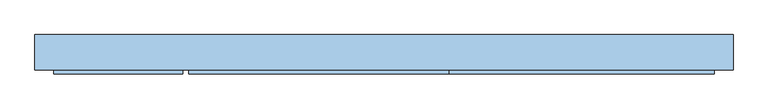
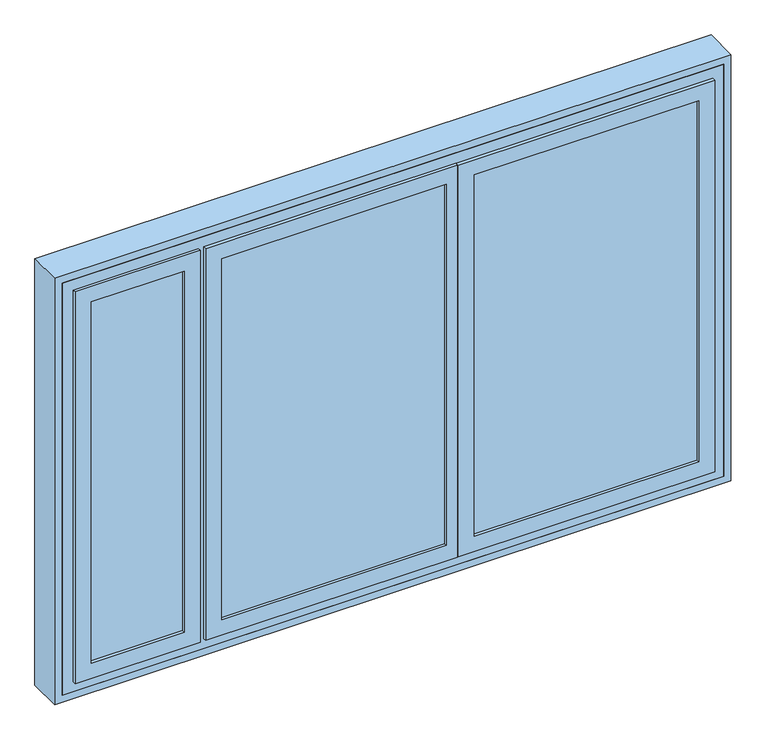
"""IFC4 building model written with IfcOpenShell, lengths in millimetres: window geometry, Окно 3-Распашное - Разделенные наружные и парные внутренние переплеты с остеклением - ГОСТ 11214-2003 : ОД РСП Г1 1760-2670-138 ГОСТ 11214-2003."""

from ifc_helpers import new_model, si_unit, frame, origin, place, context, project, spatial, polyline, outline, extrude, faceted_brep, source, transform, mapped, element, save


def window_17d24cb2(model_context):
    return source(origin(), model_context, "Body", "SolidModel", [
        extrude(outline(polyline([(2620.0, -1385.0), (800.0, -1385.0), (800.0, 1345.0), (2620.0, 1345.0), (2620.0, -1385.0)]), holes=[polyline([(2590.0, 1315.0), (830.0, 1315.0), (830.0, -1355.0), (2590.0, -1355.0), (2590.0, 1315.0)])]), frame((0.0, 167.0, 0.0), z_axis=(0.0, 1.0, 0.0), x_axis=(0.0, 0.0, 1.0)), (0.0, 0.0, 1.0), 138.0),
        extrude(outline(polyline([(1226.0383918, 168.0), (1226.0383918, 165.0), (280.5, 165.0), (280.5, 168.0), (1226.0383918, 168.0)])), frame((0.0, 0.0, 919.0), z_axis=(0.0, 0.0, 1.0), x_axis=(1.0, 0.0, 0.0)), (0.0, 0.0, 1.0), 1582.0),
        extrude(outline(polyline([(1226.0, 215.0), (1226.0, 212.0), (280.5, 212.0), (280.5, 215.0), (1226.0, 215.0)])), frame((0.0, 0.0, 919.0), z_axis=(0.0, 0.0, 1.0), x_axis=(1.0, 0.0, 0.0)), (0.0, 0.0, 1.0), 1582.0),
        extrude(outline(polyline([(207.5, 168.0), (207.5, 165.0), (-739.0, 165.0), (-739.0, 168.0), (207.5, 168.0)])), frame((0.0, 0.0, 919.0), z_axis=(0.0, 0.0, 1.0), x_axis=(1.0, 0.0, 0.0)), (0.0, 0.0, 1.0), 1582.0),
        extrude(outline(polyline([(207.5, 215.0), (207.5, 212.0), (-739.0, 212.0), (-739.0, 215.0), (207.5, 215.0)])), frame((0.0, 0.0, 919.0), z_axis=(0.0, 0.0, 1.0), x_axis=(1.0, 0.0, 0.0)), (0.0, 0.0, 1.0), 1582.0),
        extrude(outline(polyline([(-851.0, 168.0), (-851.0, 165.0), (-1266.0, 165.0), (-1266.0, 168.0), (-851.0, 168.0)])), frame((0.0, 0.0, 919.0), z_axis=(0.0, 0.0, 1.0), x_axis=(1.0, 0.0, 0.0)), (0.0, 0.0, 1.0), 1582.0),
        extrude(outline(polyline([(-851.0, 215.0), (-851.0, 212.0), (-1266.0, 212.0), (-1266.0, 215.0), (-851.0, 215.0)])), frame((0.0, 0.0, 919.0), z_axis=(0.0, 0.0, 1.0), x_axis=(1.0, 0.0, 0.0)), (0.0, 0.0, 1.0), 1582.0),
        extrude(outline(polyline([(1214.0, 275.0), (1214.0, 272.0), (280.5, 272.0), (280.5, 275.0), (1214.0, 275.0)])), frame((0.0, 0.0, 931.0), z_axis=(0.0, 0.0, 1.0), x_axis=(1.0, 0.0, 0.0)), (0.0, 0.0, 1.0), 1558.0),
        extrude(outline(polyline([(207.5, 275.0), (207.5, 272.0), (-710.0, 272.0), (-710.0, 275.0), (207.5, 275.0)])), frame((0.0, 0.0, 931.0), z_axis=(0.0, 0.0, 1.0), x_axis=(1.0, 0.0, 0.0)), (0.0, 0.0, 1.0), 1558.0),
        extrude(outline(polyline([(-880.0, 275.0), (-880.0, 272.0), (-1254.0, 272.0), (-1254.0, 275.0), (-880.0, 275.0)])), frame((0.0, 0.0, 931.0), z_axis=(0.0, 0.0, 1.0), x_axis=(1.0, 0.0, 0.0)), (0.0, 0.0, 1.0), 1558.0),
        faceted_brep([(1259.0, 259.0, 2534.0), (1259.0, 249.0, 2534.0), (1259.0, 249.0, 886.0), (1259.0, 259.0, 886.0), (235.5, 249.0, 2534.0), (235.5, 249.0, 886.0), (1194.0, 249.0, 951.0), (300.5, 249.0, 951.0), (300.5, 249.0, 2469.0), (1194.0, 249.0, 2469.0), (235.5, 259.0, 886.0), (235.5, 259.0, 2534.0), (1250.0, 259.0, 2525.0), (244.5, 259.0, 2525.0), (244.5, 259.0, 895.0), (1250.0, 259.0, 895.0), (1250.0, 288.0, 2525.0), (1250.0, 288.0, 895.0), (244.5, 288.0, 895.0), (244.5, 288.0, 2525.0), (1194.0, 288.0, 2469.0), (300.5, 288.0, 2469.0), (300.5, 288.0, 951.0), (1194.0, 288.0, 951.0), (1194.0, 275.0, 2469.0), (1194.0, 275.0, 951.0), (300.5, 275.0, 951.0), (1214.0, 275.0, 2489.0), (280.5, 275.0, 2489.0), (280.5, 275.0, 931.0), (1214.0, 275.0, 931.0), (300.5, 275.0, 2469.0), (1214.0, 272.0, 2489.0), (1214.0, 272.0, 931.0), (280.5, 272.0, 931.0), (280.5, 272.0, 2489.0), (1194.0, 272.0, 2469.0), (300.5, 272.0, 2469.0), (300.5, 272.0, 951.0), (1194.0, 272.0, 951.0)], [[[0, 1, 2, 3]], [[1, 4, 5, 2], [6, 7, 8, 9]], [[3, 2, 5, 10]], [[3, 10, 11, 0], [12, 13, 14, 15]], [[16, 12, 15, 17]], [[17, 15, 14, 18]], [[17, 18, 19, 16], [20, 21, 22, 23]], [[24, 20, 23, 25]], [[25, 23, 22, 26]], [[27, 28, 29, 30], [25, 26, 31, 24]], [[32, 27, 30, 33]], [[33, 30, 29, 34]], [[33, 34, 35, 32], [36, 37, 38, 39]], [[9, 36, 39, 6]], [[6, 39, 38, 7]], [[10, 5, 4, 11]], [[18, 14, 13, 19]], [[26, 22, 21, 31]], [[34, 29, 28, 35]], [[7, 38, 37, 8]], [[11, 4, 1, 0]], [[19, 13, 12, 16]], [[31, 21, 20, 24]], [[35, 28, 27, 32]], [[8, 37, 36, 9]]]),
        faceted_brep([(1206.0, 215.0, 2481.0), (1206.0, 228.0, 2481.0), (1206.0, 228.0, 939.0), (1206.0, 215.0, 939.0), (1262.0, 228.0, 883.0), (244.5, 228.0, 883.0), (244.5, 228.0, 2537.0), (1262.0, 228.0, 2537.0), (300.5, 228.0, 2481.0), (300.5, 228.0, 939.0), (300.5, 215.0, 939.0), (1226.0, 215.0, 2501.0), (280.5, 215.0, 2501.0), (280.5, 215.0, 919.0), (1226.0, 215.0, 919.0), (300.5, 215.0, 2481.0), (1226.0, 212.0, 2501.0), (1226.0, 212.0, 919.0), (280.5, 212.0, 919.0), (280.5, 212.0, 2501.0), (1206.0, 212.0, 2481.0), (300.5, 212.0, 2481.0), (300.5, 212.0, 939.0), (1206.0, 212.0, 939.0), (1206.0, 196.0, 2481.0), (1206.0, 196.0, 939.0), (300.5, 196.0, 939.0), (1262.0, 196.0, 2537.0), (244.5, 196.0, 2537.0), (244.5, 196.0, 883.0), (1262.0, 196.0, 883.0), (300.5, 196.0, 2481.0)], [[[0, 1, 2, 3]], [[4, 5, 6, 7], [1, 8, 9, 2]], [[3, 2, 9, 10]], [[11, 12, 13, 14], [3, 10, 15, 0]], [[16, 11, 14, 17]], [[17, 14, 13, 18]], [[17, 18, 19, 16], [20, 21, 22, 23]], [[24, 20, 23, 25]], [[25, 23, 22, 26]], [[27, 28, 29, 30], [25, 26, 31, 24]], [[7, 27, 30, 4]], [[4, 30, 29, 5]], [[10, 9, 8, 15]], [[18, 13, 12, 19]], [[26, 22, 21, 31]], [[5, 29, 28, 6]], [[15, 8, 1, 0]], [[19, 12, 11, 16]], [[31, 21, 20, 24]], [[6, 28, 27, 7]]]),
        faceted_brep([(1262.0, 194.0, 2537.0), (1262.0, 165.0, 2537.0), (1262.0, 165.0, 883.0), (1262.0, 194.0, 883.0), (1271.0, 165.0, 874.0), (235.5, 165.0, 874.0), (235.5, 165.0, 2546.0), (1271.0, 165.0, 2546.0), (244.5, 165.0, 2537.0), (244.5, 165.0, 883.0), (244.5, 194.0, 883.0), (244.5, 194.0, 2537.0), (1206.0, 194.0, 2481.0), (300.5, 194.0, 2481.0), (300.5, 194.0, 939.0), (1206.0, 194.0, 939.0), (1206.0, 152.0, 2481.0), (1206.0, 165.0, 2481.0), (1206.0, 165.0, 939.0), (1206.0, 152.0, 939.0), (1226.0, 165.0, 919.0), (280.5, 165.0, 919.0), (280.5, 165.0, 2501.0), (1226.0, 165.0, 2501.0), (300.5, 165.0, 2481.0), (300.5, 165.0, 939.0), (300.5, 152.0, 939.0), (1271.0, 152.0, 2546.0), (235.5, 152.0, 2546.0), (235.5, 152.0, 874.0), (1271.0, 152.0, 874.0), (300.5, 152.0, 2481.0), (300.5, 168.0, 939.0), (300.5, 168.0, 2481.0), (1206.0, 168.0, 939.0), (1206.0, 168.0, 2481.0), (1226.0, 168.0, 2501.0), (280.5, 168.0, 2501.0), (280.5, 168.0, 919.0), (1226.0, 168.0, 919.0)], [[[0, 1, 2, 3]], [[4, 5, 6, 7], [1, 8, 9, 2]], [[3, 2, 9, 10]], [[3, 10, 11, 0], [12, 13, 14, 15]], [[16, 17, 18, 19]], [[20, 21, 22, 23], [17, 24, 25, 18]], [[19, 18, 25, 26]], [[27, 28, 29, 30], [19, 26, 31, 16]], [[7, 27, 30, 4]], [[4, 30, 29, 5]], [[10, 9, 8, 11]], [[26, 25, 24, 31]], [[5, 29, 28, 6]], [[32, 14, 13, 33]], [[34, 15, 14, 32]], [[35, 12, 15, 34]], [[36, 37, 38, 39], [34, 32, 33, 35]], [[23, 36, 39, 20]], [[20, 39, 38, 21]], [[21, 38, 37, 22]], [[11, 8, 1, 0]], [[31, 24, 17, 16]], [[6, 28, 27, 7]], [[33, 13, 12, 35]], [[22, 37, 36, 23]]]),
        faceted_brep([(232.5, 259.0, 2525.0), (232.5, 259.0, 2534.0), (232.5, 249.0, 2534.0), (232.5, 249.0, 886.0), (232.5, 259.0, 886.0), (232.5, 259.0, 895.0), (232.5, 261.0, 895.0), (232.5, 261.0, 2525.0), (-755.0, 249.0, 2534.0), (-755.0, 249.0, 886.0), (-690.0, 249.0, 2469.0), (187.5, 249.0, 2469.0), (187.5, 249.0, 951.0), (-690.0, 249.0, 951.0), (-755.0, 259.0, 886.0), (-746.0, 259.0, 2525.0), (-746.0, 259.0, 895.0), (-755.0, 259.0, 2534.0), (-746.0, 288.0, 895.0), (242.5, 288.0, 895.0), (242.5, 261.0, 895.0), (242.5, 261.0, 2525.0), (-746.0, 288.0, 2525.0), (187.5, 272.0, 2469.0), (187.5, 272.0, 951.0), (-690.0, 272.0, 951.0), (-690.0, 272.0, 2469.0), (-710.0, 272.0, 931.0), (-710.0, 272.0, 2489.0), (207.5, 272.0, 2489.0), (207.5, 272.0, 931.0), (-710.0, 275.0, 931.0), (-710.0, 275.0, 2489.0), (207.5, 275.0, 2489.0), (207.5, 275.0, 931.0), (-690.0, 275.0, 2469.0), (187.5, 275.0, 2469.0), (187.5, 275.0, 951.0), (-690.0, 275.0, 951.0), (187.5, 288.0, 2469.0), (187.5, 288.0, 951.0), (-690.0, 288.0, 951.0), (-690.0, 288.0, 2469.0), (242.5, 288.0, 2525.0)], [[[0, 1, 2, 3, 4, 5, 6, 7]], [[3, 2, 8, 9], [10, 11, 12, 13]], [[14, 4, 3, 9]], [[1, 0, 15, 16, 5, 4, 14, 17]], [[16, 18, 19, 20, 6, 5]], [[21, 7, 6, 20]], [[16, 15, 22, 18]], [[17, 14, 9, 8]], [[23, 24, 12, 11]], [[25, 13, 12, 24]], [[10, 13, 25, 26]], [[27, 28, 29, 30], [26, 25, 24, 23]], [[28, 27, 31, 32]], [[30, 29, 33, 34]], [[34, 31, 27, 30]], [[32, 31, 34, 33], [35, 36, 37, 38]], [[39, 40, 37, 36]], [[41, 38, 37, 40]], [[35, 38, 41, 42]], [[43, 19, 18, 22], [42, 41, 40, 39]], [[43, 21, 20, 19]], [[2, 1, 17, 8]], [[43, 22, 15, 0, 7, 21]], [[10, 26, 23, 11]], [[29, 28, 32, 33]], [[35, 42, 39, 36]]]),
        faceted_brep([(232.5, 152.0, 874.0), (232.5, 165.0, 874.0), (232.5, 165.0, 884.0), (232.5, 167.0, 884.0), (232.5, 167.0, 2536.0), (232.5, 165.0, 2536.0), (232.5, 165.0, 2546.0), (232.5, 152.0, 2546.0), (-784.0, 152.0, 874.0), (-784.0, 165.0, 874.0), (-774.0, 165.0, 884.0), (-784.0, 165.0, 2546.0), (-774.0, 165.0, 2536.0), (-774.0, 194.0, 884.0), (242.5, 194.0, 884.0), (242.5, 167.0, 884.0), (242.5, 167.0, 2536.0), (-784.0, 152.0, 2546.0), (-719.0, 152.0, 939.0), (-719.0, 152.0, 2481.0), (187.5, 152.0, 2481.0), (187.5, 152.0, 939.0), (-774.0, 194.0, 2536.0), (242.5, 194.0, 2536.0), (-719.0, 194.0, 939.0), (187.5, 194.0, 939.0), (187.5, 194.0, 2481.0), (-719.0, 194.0, 2481.0), (-719.0, 168.0, 939.0), (187.5, 168.0, 939.0), (187.5, 168.0, 2481.0), (-719.0, 168.0, 2481.0), (-739.0, 168.0, 2501.0), (-739.0, 168.0, 919.0), (207.5, 168.0, 919.0), (207.5, 168.0, 2501.0), (-739.0, 165.0, 2501.0), (-739.0, 165.0, 919.0), (207.5, 165.0, 919.0), (207.5, 165.0, 2501.0), (-719.0, 165.0, 939.0), (187.5, 165.0, 939.0), (187.5, 165.0, 2481.0), (-719.0, 165.0, 2481.0)], [[[0, 1, 2, 3, 4, 5, 6, 7]], [[1, 0, 8, 9]], [[10, 2, 1, 9, 11, 6, 5, 12]], [[10, 13, 14, 15, 3, 2]], [[16, 4, 3, 15]], [[0, 7, 17, 8], [18, 19, 20, 21]], [[13, 10, 12, 22]], [[14, 13, 22, 23], [24, 25, 26, 27]], [[23, 16, 15, 14]], [[24, 28, 29, 25]], [[29, 30, 26, 25]], [[24, 27, 31, 28]], [[32, 33, 34, 35], [28, 31, 30, 29]], [[33, 32, 36, 37]], [[34, 33, 37, 38]], [[35, 34, 38, 39]], [[37, 36, 39, 38], [40, 41, 42, 43]], [[40, 18, 21, 41]], [[21, 20, 42, 41]], [[40, 43, 19, 18]], [[8, 17, 11, 9]], [[23, 22, 12, 5, 4, 16]], [[17, 7, 6, 11]], [[31, 27, 26, 30]], [[39, 36, 32, 35]], [[19, 43, 42, 20]]]),
        faceted_brep([(-763.0, 228.0, 884.0), (-763.0, 196.0, 884.0), (-763.0, 196.0, 2536.0), (-763.0, 228.0, 2536.0), (242.5, 228.0, 884.0), (242.5, 196.0, 884.0), (242.5, 196.0, 2536.0), (187.5, 196.0, 939.0), (-719.0, 196.0, 939.0), (-719.0, 196.0, 2481.0), (187.5, 196.0, 2481.0), (242.5, 228.0, 2536.0), (187.5, 228.0, 2481.0), (-719.0, 228.0, 2481.0), (-719.0, 228.0, 939.0), (187.5, 228.0, 939.0), (-719.0, 215.0, 2481.0), (-719.0, 215.0, 939.0), (187.5, 215.0, 939.0), (187.5, 215.0, 2481.0), (207.5, 215.0, 919.0), (207.5, 215.0, 2501.0), (-739.0, 215.0, 2501.0), (-739.0, 215.0, 919.0), (207.5, 212.0, 919.0), (207.5, 212.0, 2501.0), (-739.0, 212.0, 2501.0), (-739.0, 212.0, 919.0), (187.5, 212.0, 2481.0), (-719.0, 212.0, 2481.0), (-719.0, 212.0, 939.0), (187.5, 212.0, 939.0)], [[[0, 1, 2, 3]], [[0, 4, 5, 1]], [[2, 1, 5, 6], [7, 8, 9, 10]], [[0, 3, 11, 4], [12, 13, 14, 15]], [[16, 17, 14, 13]], [[18, 15, 14, 17]], [[12, 15, 18, 19]], [[4, 11, 6, 5]], [[20, 21, 22, 23], [19, 18, 17, 16]], [[21, 20, 24, 25]], [[23, 22, 26, 27]], [[27, 24, 20, 23]], [[25, 24, 27, 26], [28, 29, 30, 31]], [[9, 8, 30, 29]], [[7, 31, 30, 8]], [[28, 31, 7, 10]], [[11, 3, 2, 6]], [[12, 19, 16, 13]], [[22, 21, 25, 26]], [[28, 10, 9, 29]]]),
        faceted_brep([(-827.0, 228.0, 884.0), (-827.0, 196.0, 884.0), (-1301.0, 196.0, 884.0), (-1301.0, 228.0, 884.0), (-827.0, 228.0, 2536.0), (-827.0, 196.0, 2536.0), (-1301.0, 196.0, 2536.0), (-870.8851315, 196.0, 2481.0), (-870.8851315, 196.0, 939.0), (-1246.0, 196.0, 939.0), (-1246.0, 196.0, 2481.0), (-1301.0, 228.0, 2536.0), (-870.8851315, 228.0, 939.0), (-870.8851315, 228.0, 2481.0), (-1246.0, 228.0, 2481.0), (-1246.0, 228.0, 939.0), (-1266.0, 215.0, 919.0), (-1266.0, 215.0, 2501.0), (-1266.0, 212.0, 2501.0), (-1266.0, 212.0, 919.0), (-851.0, 215.0, 919.0), (-851.0, 215.0, 2501.0), (-870.8851315, 215.0, 2481.0), (-870.8851315, 215.0, 939.0), (-1246.0, 215.0, 939.0), (-1246.0, 215.0, 2481.0), (-851.0, 212.0, 919.0), (-851.0, 212.0, 2501.0), (-870.8851315, 212.0, 939.0), (-870.8851315, 212.0, 2481.0), (-1246.0, 212.0, 2481.0), (-1246.0, 212.0, 939.0)], [[[0, 1, 2, 3]], [[0, 4, 5, 1]], [[5, 6, 2, 1], [7, 8, 9, 10]], [[2, 6, 11, 3]], [[11, 4, 0, 3], [12, 13, 14, 15]], [[16, 17, 18, 19]], [[17, 16, 20, 21], [22, 23, 24, 25]], [[20, 16, 19, 26]], [[21, 20, 26, 27]], [[23, 22, 13, 12]], [[15, 24, 23, 12]], [[15, 14, 25, 24]], [[19, 18, 27, 26], [28, 29, 30, 31]], [[29, 28, 8, 7]], [[10, 9, 31, 30]], [[31, 9, 8, 28]], [[5, 4, 11, 6]], [[27, 18, 17, 21]], [[25, 14, 13, 22]], [[10, 30, 29, 7]]]),
        faceted_brep([(-844.0, 288.0, 2525.0), (-844.0, 259.0, 2525.0), (-844.0, 259.0, 895.0), (-844.0, 288.0, 895.0), (-835.0, 259.0, 886.0), (-1299.0, 259.0, 886.0), (-1299.0, 259.0, 2534.0), (-835.0, 259.0, 2534.0), (-1290.0, 259.0, 2525.0), (-1290.0, 259.0, 895.0), (-1290.0, 288.0, 895.0), (-1290.0, 288.0, 2525.0), (-900.0, 288.0, 2469.0), (-1234.0, 288.0, 2469.0), (-1234.0, 288.0, 951.0), (-900.0, 288.0, 951.0), (-900.0, 249.0, 2469.0), (-900.0, 272.0, 2469.0), (-900.0, 272.0, 951.0), (-900.0, 249.0, 951.0), (-880.0, 272.0, 931.0), (-1254.0, 272.0, 931.0), (-1254.0, 272.0, 2489.0), (-880.0, 272.0, 2489.0), (-1234.0, 272.0, 2469.0), (-1234.0, 272.0, 951.0), (-1234.0, 249.0, 951.0), (-835.0, 249.0, 2534.0), (-1299.0, 249.0, 2534.0), (-1299.0, 249.0, 886.0), (-835.0, 249.0, 886.0), (-1234.0, 249.0, 2469.0), (-1234.0, 275.0, 951.0), (-1234.0, 275.0, 2469.0), (-900.0, 275.0, 951.0), (-900.0, 275.0, 2469.0), (-880.0, 275.0, 2489.0), (-1254.0, 275.0, 2489.0), (-1254.0, 275.0, 931.0), (-880.0, 275.0, 931.0)], [[[0, 1, 2, 3]], [[4, 5, 6, 7], [1, 8, 9, 2]], [[3, 2, 9, 10]], [[3, 10, 11, 0], [12, 13, 14, 15]], [[16, 17, 18, 19]], [[20, 21, 22, 23], [17, 24, 25, 18]], [[19, 18, 25, 26]], [[27, 28, 29, 30], [19, 26, 31, 16]], [[7, 27, 30, 4]], [[4, 30, 29, 5]], [[10, 9, 8, 11]], [[26, 25, 24, 31]], [[5, 29, 28, 6]], [[32, 14, 13, 33]], [[34, 15, 14, 32]], [[35, 12, 15, 34]], [[36, 37, 38, 39], [34, 32, 33, 35]], [[23, 36, 39, 20]], [[20, 39, 38, 21]], [[21, 38, 37, 22]], [[11, 8, 1, 0]], [[31, 24, 17, 16]], [[6, 28, 27, 7]], [[33, 13, 12, 35]], [[22, 37, 36, 23]]]),
        faceted_brep([(-816.0, 194.0, 2536.0), (-816.0, 165.0, 2536.0), (-816.0, 165.0, 884.0), (-816.0, 194.0, 884.0), (-806.0, 165.0, 874.0), (-1311.0, 165.0, 874.0), (-1311.0, 165.0, 2546.0), (-806.0, 165.0, 2546.0), (-1301.0, 165.0, 2536.0), (-1301.0, 165.0, 884.0), (-1301.0, 194.0, 884.0), (-1301.0, 194.0, 2536.0), (-871.0, 194.0, 2481.0), (-1246.0, 194.0, 2481.0), (-1246.0, 194.0, 939.0), (-871.0, 194.0, 939.0), (-871.0, 152.0, 2481.0), (-871.0, 165.0, 2481.0), (-871.0, 165.0, 939.0), (-871.0, 152.0, 939.0), (-851.0, 165.0, 919.0), (-1266.0, 165.0, 919.0), (-1266.0, 165.0, 2501.0), (-851.0, 165.0, 2501.0), (-1246.0, 165.0, 2481.0), (-1246.0, 165.0, 939.0), (-1246.0, 152.0, 939.0), (-806.0, 152.0, 2546.0), (-1311.0, 152.0, 2546.0), (-1311.0, 152.0, 874.0), (-806.0, 152.0, 874.0), (-1246.0, 152.0, 2481.0), (-1246.0, 168.0, 939.0), (-1246.0, 168.0, 2481.0), (-871.0, 168.0, 939.0), (-871.0, 168.0, 2481.0), (-851.0, 168.0, 2501.0), (-1266.0, 168.0, 2501.0), (-1266.0, 168.0, 919.0), (-851.0, 168.0, 919.0)], [[[0, 1, 2, 3]], [[4, 5, 6, 7], [1, 8, 9, 2]], [[3, 2, 9, 10]], [[3, 10, 11, 0], [12, 13, 14, 15]], [[16, 17, 18, 19]], [[20, 21, 22, 23], [17, 24, 25, 18]], [[19, 18, 25, 26]], [[27, 28, 29, 30], [19, 26, 31, 16]], [[7, 27, 30, 4]], [[4, 30, 29, 5]], [[10, 9, 8, 11]], [[26, 25, 24, 31]], [[5, 29, 28, 6]], [[32, 14, 13, 33]], [[34, 15, 14, 32]], [[35, 12, 15, 34]], [[36, 37, 38, 39], [34, 32, 33, 35]], [[23, 36, 39, 20]], [[20, 39, 38, 21]], [[21, 38, 37, 22]], [[11, 8, 1, 0]], [[31, 24, 17, 16]], [[6, 28, 27, 7]], [[33, 13, 12, 35]], [[22, 37, 36, 23]]]),
        faceted_brep([(1315.0, 305.0, 830.0), (1315.0, 167.0, 830.0), (-1355.0, 167.0, 830.0), (-1355.0, 305.0, 830.0), (1315.0, 305.0, 2590.0), (1315.0, 167.0, 2590.0), (-1355.0, 167.0, 2590.0), (1264.0, 167.0, 881.0), (-777.0, 167.0, 881.0), (-777.0, 167.0, 2539.0), (1264.0, 167.0, 2539.0), (-1304.0, 167.0, 881.0), (-1304.0, 167.0, 2539.0), (-813.0, 167.0, 2539.0), (-813.0, 167.0, 881.0), (-1355.0, 305.0, 2590.0), (-1274.0, 305.0, 887.1764763), (-856.0, 305.0, 887.1764763), (-856.0, 305.0, 2509.0), (-1274.0, 305.0, 2509.0), (1234.0, 305.0, 887.1764763), (1234.0, 305.0, 2509.0), (-734.0, 305.0, 2509.0), (-734.0, 305.0, 887.1764763), (-1304.0, 261.0, 2539.0), (-1304.0, 261.0, 881.0), (1264.0, 261.0, 881.0), (-765.0, 261.0, 881.0), (-765.0, 196.0, 881.0), (-777.0, 196.0, 881.0), (-825.0, 261.0, 881.0), (-813.0, 196.0, 881.0), (-825.0, 196.0, 881.0), (-825.0, 261.0, 2539.0), (-1292.0, 261.0, 893.0), (-1292.0, 261.0, 2527.0), (-843.0, 261.0, 2527.0), (-843.0, 261.0, 893.0), (1264.0, 261.0, 2539.0), (-765.0, 261.0, 2539.0), (1252.0, 261.0, 2527.0), (1252.0, 261.0, 893.0), (-747.0, 261.0, 893.0), (-747.0, 261.0, 2527.0), (-1292.0, 289.0, 2527.0), (-1292.0, 289.0, 893.0), (-843.0, 289.0, 893.0), (-856.0, 289.0, 893.0), (-1274.0, 289.0, 893.0), (1252.0, 289.0, 893.0), (1234.0, 289.0, 893.0), (-734.0, 289.0, 893.0), (-747.0, 289.0, 893.0), (-1274.0, 289.0, 2509.0), (-856.0, 289.0, 2509.0), (-843.0, 289.0, 2527.0), (1252.0, 289.0, 2527.0), (-747.0, 289.0, 2527.0), (-734.0, 289.0, 2509.0), (1234.0, 289.0, 2509.0), (-765.0, 196.0, 2539.0), (-777.0, 196.0, 2539.0), (-813.0, 196.0, 2539.0), (-825.0, 196.0, 2539.0)], [[[0, 1, 2, 3]], [[1, 0, 4, 5]], [[5, 6, 2, 1], [7, 8, 9, 10], [11, 12, 13, 14]], [[6, 15, 3, 2]], [[15, 4, 0, 3], [16, 17, 18, 19], [20, 21, 22, 23]], [[24, 12, 11, 25]], [[7, 26, 27, 28, 29, 8]], [[30, 25, 11, 14, 31, 32]], [[24, 25, 30, 33], [34, 35, 36, 37]], [[26, 38, 39, 27], [40, 41, 42, 43]], [[44, 35, 34, 45]], [[45, 34, 37, 46, 47, 48]], [[41, 49, 50, 51, 52, 42]], [[48, 53, 54, 47, 46, 55, 44, 45]], [[49, 56, 57, 52, 51, 58, 59, 50]], [[19, 53, 48, 16]], [[16, 48, 47, 17]], [[50, 20, 23, 51]], [[10, 38, 26, 7]], [[60, 28, 27, 39]], [[61, 29, 28, 60]], [[9, 8, 29, 61]], [[62, 31, 14, 13]], [[63, 32, 31, 62]], [[32, 63, 33, 30]], [[37, 36, 55, 46]], [[40, 56, 49, 41]], [[43, 42, 52, 57]], [[18, 17, 47, 54]], [[59, 21, 20, 50]], [[23, 22, 58, 51]], [[5, 4, 15, 6]], [[12, 24, 33, 63, 62, 13]], [[39, 38, 10, 9, 61, 60]], [[35, 44, 55, 36]], [[57, 56, 40, 43]], [[21, 59, 58, 22]], [[53, 19, 18, 54]]]),
    ])


if __name__ == "__main__":
    model = new_model("IFC4")
    model_context = context("Model", 3, world=origin())
    ifc_project = project(units=[si_unit("LENGTHUNIT", "METRE", prefix="MILLI")], contexts=[model_context])
    site = spatial("IfcSite", under=ifc_project)
    building = spatial("IfcBuilding", under=site)
    placement = place(None, origin())
    window_shape = window_17d24cb2(model_context)
    element("IfcWindow", 1, ObjectType="Окно 3-Распашное - Разделенные наружные и парные внутренние переплеты с остеклением - ГОСТ 11214-2003 : ОД РСП Г1 1760-2670-138 ГОСТ 11214-2003", at=placement, inside=building, context=model_context, shape_type="MappedRepresentation", body=[
        mapped(window_shape, transform((0.0, 0.0, 0.0), x_axis=(1.0, 0.0, 0.0), y_axis=(0.0, 1.0, 0.0), z_axis=(0.0, 0.0, 1.0))),
    ])
    save(model, "model.ifc")
